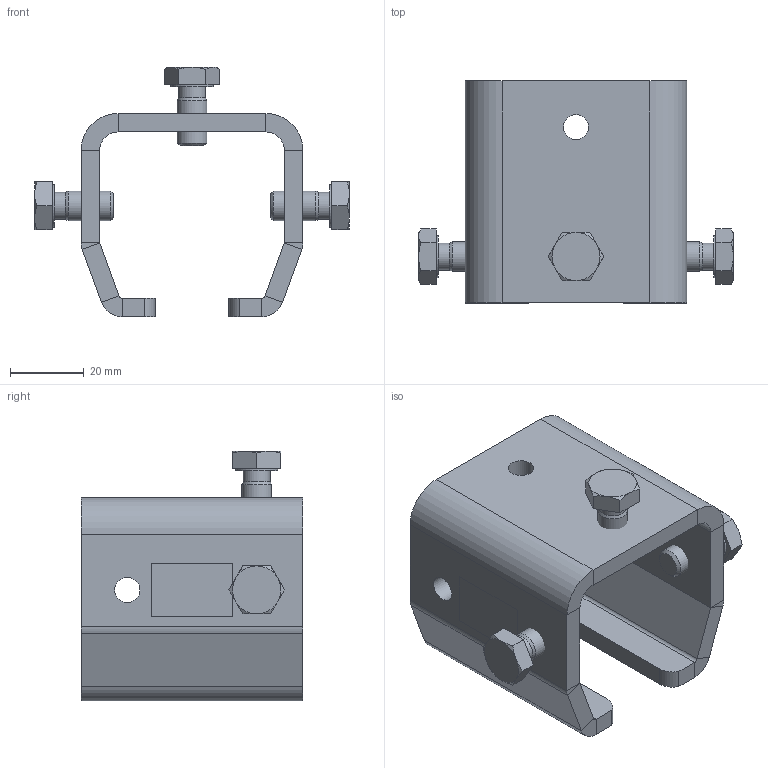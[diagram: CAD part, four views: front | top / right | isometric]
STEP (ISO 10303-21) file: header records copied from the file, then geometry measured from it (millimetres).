
FILE_DESCRIPTION(/* description */ ('Muffe Nr.2_kurz'),/* implementation_level */ '2;1');
FILE_NAME(/* name */ 'Q:\sge-ma\Produktmanagement-STB\STB\Workspace\stp\010335222.stp',/* time_stamp */ '2015-07-09T15:05:47+02:00',/* author */ ('avschreier'),/* organization */ (''),/* preprocessor_version */ 'ST-DEVELOPER v15.6',/* originating_system */ 'Autodesk Inventor 2015',/* authorisation */ '');
FILE_SCHEMA (('CONFIG_CONTROL_DESIGN'));
Length unit declared in the file: millimetre
Products named in the file (3): 335140020; DIN_EN_ISO_4017-M8x16_en; 010335222
Bounding box: 85.07 x 60 x 67.53 mm (x, y, z)
Volume: 55031 mm3; surface area: 25848.1 mm2
Topology: 4 solids, 4 shells, 137 faces, 291 edges, 170 vertices
Faces by surface type: plane 82, cylinder 31, cone 24
Full cylindrical faces by diameter (mm): 6.647 x3, 6.8 x3, 7.323 x3, 8 x3, 11.4 x3
Entity records: 2561 total; most frequent: DIRECTION 442, CARTESIAN_POINT 436, ORIENTED_EDGE 386, EDGE_CURVE 193, AXIS2_PLACEMENT_3D 159, LINE 124, VECTOR 124, EDGE_LOOP 122
